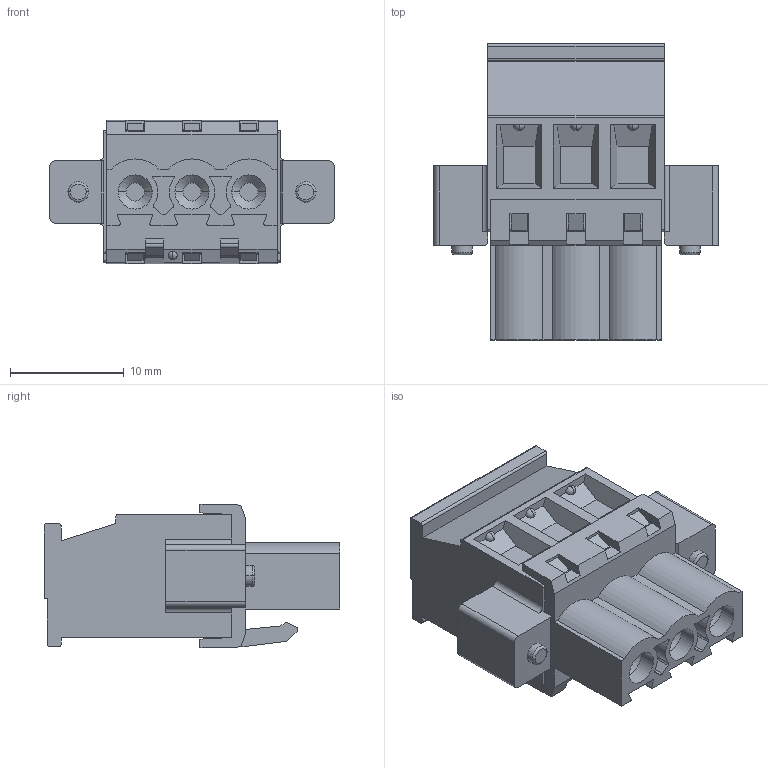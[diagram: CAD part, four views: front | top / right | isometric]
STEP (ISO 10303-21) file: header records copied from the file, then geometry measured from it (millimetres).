
FILE_DESCRIPTION((''),'2;1');
FILE_NAME('33','2019-04-10T',('zhenbing.lai'),(''),'CREO PARAMETRIC BY PTC INC, 2016260','CREO PARAMETRIC BY PTC INC, 2016260','');
FILE_SCHEMA(('CONFIG_CONTROL_DESIGN'));
Length unit declared in the file: millimetre
Products named in the file (1): 33
Bounding box: 25 x 26 x 12.59 mm (x, y, z)
Volume: 3678.7 mm3; surface area: 2672.9 mm2
Topology: 1 solids, 1 shells, 383 faces, 1208 edges, 813 vertices
Faces by surface type: plane 218, cylinder 100, cone 37, torus 14, sphere 8, bspline 6
Entity records: 16893 total; most frequent: CARTESIAN_POINT 6361, ORIENTED_EDGE 2400, DIRECTION 1986, EDGE_CURVE 1200, VERTEX_POINT 813, AXIS2_PLACEMENT_3D 679, VECTOR 628, LINE 628
